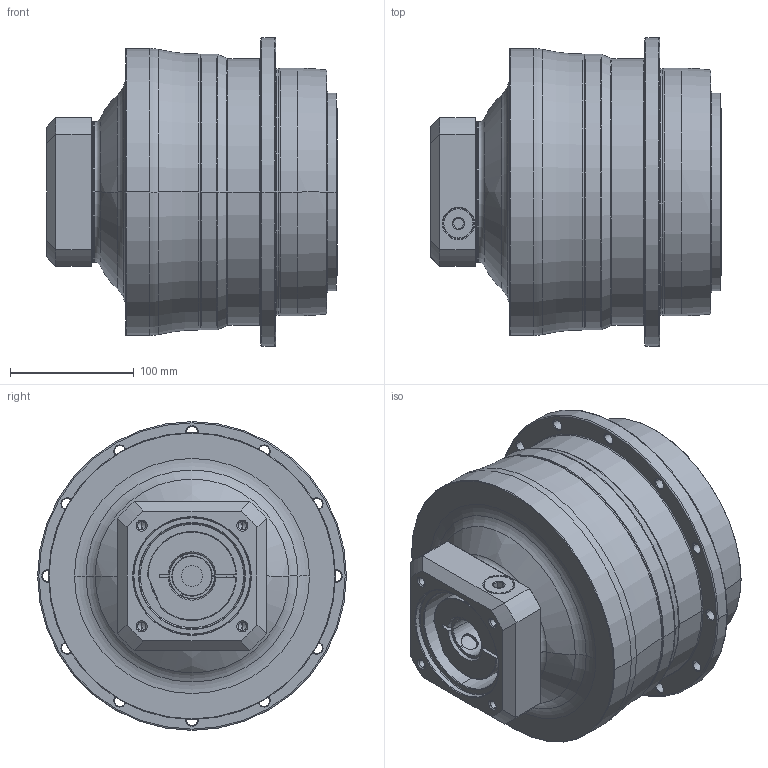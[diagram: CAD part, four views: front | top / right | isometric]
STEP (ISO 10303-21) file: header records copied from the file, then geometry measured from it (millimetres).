
FILE_DESCRIPTION((''),'2;1');
FILE_NAME('AH200_2ST_32-P0409700101_ASM','2016-08-12T',('d01943'),(''),'PRO/ENGINEER BY PARAMETRIC TECHNOLOGY CORPORATION, 2008410','PRO/ENGINEER BY PARAMETRIC TECHNOLOGY CORPORATION, 2008410','');
FILE_SCHEMA(('CONFIG_CONTROL_DESIGN'));
Length unit declared in the file: millimetre
Products named in the file (8): P0278600003; P0359600002; P1317600201; P0409700101; P0503700010; P0912502001; 21711418017; AH200_2ST_32-P0409700101_ASM
Assembly tree (7 placements, depth 2):
  AH200_2ST_32-P0409700101_ASM
    P0278600003
    P0359600002
    P1317600201
    P0409700101
    P0503700010
    P0912502001
    21711418017
Bounding box: 235 x 249.5 x 249.5 mm (x, y, z)
Volume: 7007430.8 mm3; surface area: 511537.5 mm2
Topology: 8 solids, 8 shells, 553 faces, 1291 edges, 759 vertices
Faces by surface type: cylinder 206, cone 170, plane 95, torus 66, bspline 16
Entity records: 20278 total; most frequent: CARTESIAN_POINT 7420, DIRECTION 2897, ORIENTED_EDGE 2490, EDGE_CURVE 1245, AXIS2_PLACEMENT_3D 1225, VERTEX_POINT 759, CIRCLE 673, EDGE_LOOP 642
